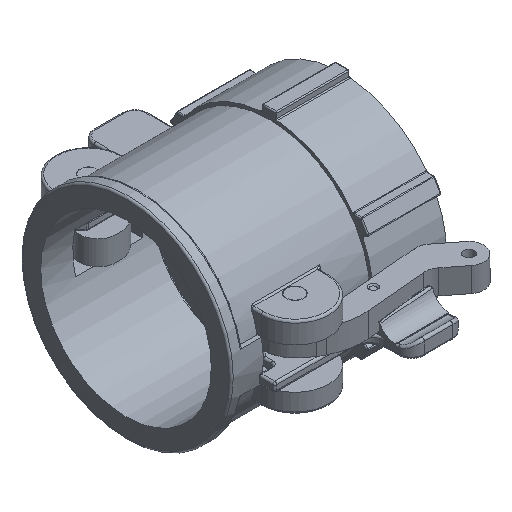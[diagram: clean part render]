
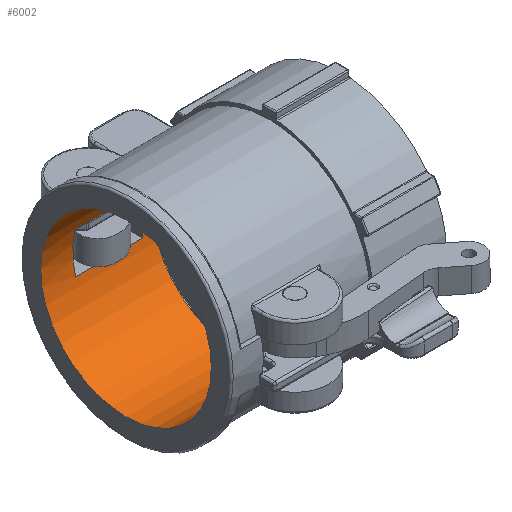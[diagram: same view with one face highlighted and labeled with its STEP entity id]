
A CAD part, isometric view. The second image highlights one B-rep face of the part: STEP entity #6002.
In plain terms, the highlighted cylindrical face has radius 32.131 mm (diameter 64.262 mm), a full revolution.
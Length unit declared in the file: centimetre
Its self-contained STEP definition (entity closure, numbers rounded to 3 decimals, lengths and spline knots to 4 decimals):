
#498=VECTOR('',#7563,1.);
#499=VECTOR('',#7566,1.);
#500=VECTOR('',#7569,1.);
#501=VECTOR('',#7572,1.);
#824=LINE('',#56072,#498);
#825=LINE('',#56076,#499);
#826=LINE('',#56080,#500);
#827=LINE('',#56084,#501);
#2032=VERTEX_POINT('',#56065);
#2033=VERTEX_POINT('',#56068);
#2034=VERTEX_POINT('',#56070);
#2035=VERTEX_POINT('',#56071);
#2036=VERTEX_POINT('',#56073);
#2037=VERTEX_POINT('',#56075);
#2038=VERTEX_POINT('',#56078);
#2039=VERTEX_POINT('',#56079);
#2040=VERTEX_POINT('',#56081);
#2041=VERTEX_POINT('',#56083);
#2387=CIRCLE('',#6473,3.2131);
#2388=CIRCLE('',#6475,3.2131);
#2389=CIRCLE('',#6476,3.2131);
#2390=CIRCLE('',#6477,3.2131);
#2391=CIRCLE('',#6478,3.2131);
#2392=CIRCLE('',#6479,3.2131);
#2998=EDGE_CURVE('',#2032,#2032,#2387,.T.);
#2999=EDGE_CURVE('',#2033,#2033,#2388,.T.);
#3000=EDGE_CURVE('',#2034,#2035,#2389,.T.);
#3001=EDGE_CURVE('',#2036,#2034,#824,.T.);
#3002=EDGE_CURVE('',#2037,#2036,#2390,.T.);
#3003=EDGE_CURVE('',#2035,#2037,#825,.T.);
#3004=EDGE_CURVE('',#2038,#2039,#2391,.T.);
#3005=EDGE_CURVE('',#2040,#2038,#826,.T.);
#3006=EDGE_CURVE('',#2041,#2040,#2392,.T.);
#3007=EDGE_CURVE('',#2039,#2041,#827,.T.);
#4274=ORIENTED_EDGE('',*,*,#2998,.T.);
#4275=ORIENTED_EDGE('',*,*,#2999,.F.);
#4276=ORIENTED_EDGE('',*,*,#3000,.F.);
#4277=ORIENTED_EDGE('',*,*,#3001,.F.);
#4278=ORIENTED_EDGE('',*,*,#3002,.F.);
#4279=ORIENTED_EDGE('',*,*,#3003,.F.);
#4280=ORIENTED_EDGE('',*,*,#3004,.F.);
#4281=ORIENTED_EDGE('',*,*,#3005,.F.);
#4282=ORIENTED_EDGE('',*,*,#3006,.F.);
#4283=ORIENTED_EDGE('',*,*,#3007,.F.);
#5218=EDGE_LOOP('',(#4274));
#5219=EDGE_LOOP('',(#4275));
#5220=EDGE_LOOP('',(#4276,#4277,#4278,#4279));
#5221=EDGE_LOOP('',(#4280,#4281,#4282,#4283));
#5622=FACE_BOUND('',#5218,.T.);
#5623=FACE_BOUND('',#5219,.T.);
#5624=FACE_BOUND('',#5220,.T.);
#5625=FACE_BOUND('',#5221,.T.);
#6002=ADVANCED_FACE('',(#5622,#5623,#5624,#5625),#58664,.F.);
#6473=AXIS2_PLACEMENT_3D('',#56064,#7555,#7556);
#6474=AXIS2_PLACEMENT_3D('',#56066,#7557,#7558);
#6475=AXIS2_PLACEMENT_3D('',#56067,#7559,#7560);
#6476=AXIS2_PLACEMENT_3D('',#56069,#7561,#7562);
#6477=AXIS2_PLACEMENT_3D('',#56074,#7564,#7565);
#6478=AXIS2_PLACEMENT_3D('',#56077,#7567,#7568);
#6479=AXIS2_PLACEMENT_3D('',#56082,#7570,#7571);
#7555=DIRECTION('',(1.,0.,0.));
#7556=DIRECTION('',(0.,0.,3.213));
#7557=DIRECTION('',(1.,0.,0.));
#7558=DIRECTION('',(0.,0.,3.213));
#7559=DIRECTION('',(1.,0.,0.));
#7560=DIRECTION('',(0.,0.,3.213));
#7561=DIRECTION('',(1.,0.,0.));
#7562=DIRECTION('',(0.,0.,3.213));
#7563=DIRECTION('',(1.,0.,0.));
#7564=DIRECTION('',(-1.,0.,0.));
#7565=DIRECTION('',(0.,0.,3.213));
#7566=DIRECTION('',(-1.,0.,0.));
#7567=DIRECTION('',(1.,0.,0.));
#7568=DIRECTION('',(0.,0.,3.213));
#7569=DIRECTION('',(1.,0.,0.));
#7570=DIRECTION('',(-1.,0.,0.));
#7571=DIRECTION('',(0.,0.,3.213));
#7572=DIRECTION('',(-1.,0.,0.));
#56064=CARTESIAN_POINT('',(4.191,0.,0.));
#56065=CARTESIAN_POINT('',(4.191,0.,-3.2131));
#56066=CARTESIAN_POINT('',(0.,0.,0.));
#56067=CARTESIAN_POINT('',(0.,0.,0.));
#56068=CARTESIAN_POINT('',(0.,0.,3.2131));
#56069=CARTESIAN_POINT('',(3.7465,0.,0.));
#56070=CARTESIAN_POINT('',(3.7465,-3.1284,0.7328));
#56071=CARTESIAN_POINT('',(3.7465,-3.1103,-0.8064));
#56072=CARTESIAN_POINT('',(2.4765,-3.1284,0.7328));
#56073=CARTESIAN_POINT('',(1.2065,-3.1284,0.7328));
#56074=CARTESIAN_POINT('',(1.2065,0.,0.));
#56075=CARTESIAN_POINT('',(1.2065,-3.1103,-0.8064));
#56076=CARTESIAN_POINT('',(2.4765,-3.1103,-0.8064));
#56077=CARTESIAN_POINT('',(3.7465,0.,0.));
#56078=CARTESIAN_POINT('',(3.7465,3.1103,-0.8064));
#56079=CARTESIAN_POINT('',(3.7465,3.1284,0.7328));
#56080=CARTESIAN_POINT('',(2.4765,3.1103,-0.8064));
#56081=CARTESIAN_POINT('',(1.2065,3.1103,-0.8064));
#56082=CARTESIAN_POINT('',(1.2065,0.,0.));
#56083=CARTESIAN_POINT('',(1.2065,3.1284,0.7328));
#56084=CARTESIAN_POINT('',(2.4765,3.1284,0.7328));
#58664=CYLINDRICAL_SURFACE('',#6474,3.2131);
